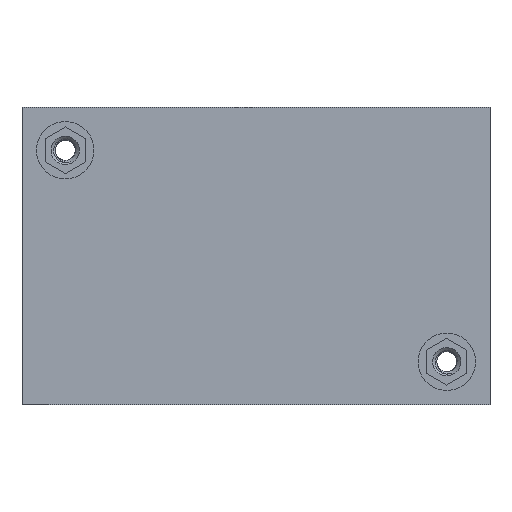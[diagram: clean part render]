
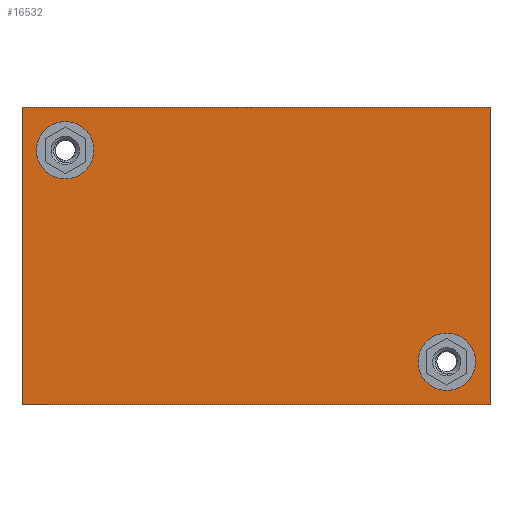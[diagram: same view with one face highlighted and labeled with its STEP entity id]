
A CAD part, front view. The second image highlights one B-rep face of the part: STEP entity #16532.
In plain terms, the highlighted planar face has unit normal (0, -1, 0).
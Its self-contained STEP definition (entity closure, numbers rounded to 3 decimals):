
#696 = ORIENTED_EDGE ( 'NONE', *, *, #8808, .F. ) ;
#756 = DIRECTION ( 'NONE',  ( 0., 0., 1. ) ) ;
#2139 = CIRCLE ( 'NONE', #15955, 3.55 ) ;
#2159 = EDGE_CURVE ( 'NONE', #18829, #3963, #7957, .T. ) ;
#2382 = CARTESIAN_POINT ( 'NONE',  ( -28.95, -1.2, -18.4 ) ) ;
#2909 = LINE ( 'NONE', #20754, #21457 ) ;
#3963 = VERTEX_POINT ( 'NONE', #20576 ) ;
#4309 = ORIENTED_EDGE ( 'NONE', *, *, #20284, .T. ) ;
#4701 = PLANE ( 'NONE',  #20001 ) ;
#5327 = CARTESIAN_POINT ( 'NONE',  ( -28.95, -1.2, -18.4 ) ) ;
#6822 = CARTESIAN_POINT ( 'NONE',  ( 28.95, -1.2, -18.4 ) ) ;
#7057 = FACE_BOUND ( 'NONE', #8844, .T. ) ;
#7743 = VECTOR ( 'NONE', #13984, 1000. ) ;
#7746 = VERTEX_POINT ( 'NONE', #17975 ) ;
#7957 = LINE ( 'NONE', #16082, #7743 ) ;
#7995 = CARTESIAN_POINT ( 'NONE',  ( -23.6, -1.2, 13.08 ) ) ;
#8808 = EDGE_CURVE ( 'NONE', #14227, #14227, #24595, .T. ) ;
#8844 = EDGE_LOOP ( 'NONE', ( #696 ) ) ;
#10131 = LINE ( 'NONE', #2382, #21352 ) ;
#10866 = CARTESIAN_POINT ( 'NONE',  ( 28.95, -1.2, 18.4 ) ) ;
#10970 = EDGE_LOOP ( 'NONE', ( #25571 ) ) ;
#11732 = VECTOR ( 'NONE', #13441, 1000. ) ;
#12267 = CARTESIAN_POINT ( 'NONE',  ( 23.6, -1.2, -9.53 ) ) ;
#12706 = DIRECTION ( 'NONE',  ( 0., -1., 0. ) ) ;
#12961 = CARTESIAN_POINT ( 'NONE',  ( -28.95, -1.2, 18.4 ) ) ;
#13385 = ORIENTED_EDGE ( 'NONE', *, *, #23958, .T. ) ;
#13441 = DIRECTION ( 'NONE',  ( -1., 0., 0. ) ) ;
#13755 = DIRECTION ( 'NONE',  ( 0., -1., 0. ) ) ;
#13984 = DIRECTION ( 'NONE',  ( 0., 0., 1. ) ) ;
#14019 = DIRECTION ( 'NONE',  ( 0., 0., 1. ) ) ;
#14227 = VERTEX_POINT ( 'NONE', #12267 ) ;
#14520 = DIRECTION ( 'NONE',  ( 0., -1., 0. ) ) ;
#15410 = CARTESIAN_POINT ( 'NONE',  ( 28.95, -1.2, 18.4 ) ) ;
#15872 = VERTEX_POINT ( 'NONE', #5327 ) ;
#15955 = AXIS2_PLACEMENT_3D ( 'NONE', #7995, #13755, #14019 ) ;
#16082 = CARTESIAN_POINT ( 'NONE',  ( 28.95, -1.2, -18.4 ) ) ;
#16098 = ORIENTED_EDGE ( 'NONE', *, *, #20369, .T. ) ;
#16190 = EDGE_LOOP ( 'NONE', ( #21915, #4309, #16098, #13385 ) ) ;
#16532 = ADVANCED_FACE ( 'NONE', ( #7057, #18999, #24533 ), #4701, .T. ) ;
#17007 = CARTESIAN_POINT ( 'NONE',  ( 23.6, -1.2, -13.08 ) ) ;
#17019 = AXIS2_PLACEMENT_3D ( 'NONE', #17007, #14520, #22796 ) ;
#17975 = CARTESIAN_POINT ( 'NONE',  ( -23.6, -1.2, 16.63 ) ) ;
#18829 = VERTEX_POINT ( 'NONE', #6822 ) ;
#18999 = FACE_BOUND ( 'NONE', #10970, .T. ) ;
#19613 = DIRECTION ( 'NONE',  ( 0., 0., -1. ) ) ;
#19979 = VERTEX_POINT ( 'NONE', #12961 ) ;
#20001 = AXIS2_PLACEMENT_3D ( 'NONE', #10866, #12706, #756 ) ;
#20284 = EDGE_CURVE ( 'NONE', #3963, #19979, #25407, .T. ) ;
#20369 = EDGE_CURVE ( 'NONE', #19979, #15872, #10131, .T. ) ;
#20576 = CARTESIAN_POINT ( 'NONE',  ( 28.95, -1.2, 18.4 ) ) ;
#20754 = CARTESIAN_POINT ( 'NONE',  ( 28.95, -1.2, -18.4 ) ) ;
#21352 = VECTOR ( 'NONE', #19613, 1000. ) ;
#21457 = VECTOR ( 'NONE', #25577, 1000. ) ;
#21915 = ORIENTED_EDGE ( 'NONE', *, *, #2159, .T. ) ;
#22796 = DIRECTION ( 'NONE',  ( 0., 0., 1. ) ) ;
#23958 = EDGE_CURVE ( 'NONE', #15872, #18829, #2909, .T. ) ;
#24533 = FACE_OUTER_BOUND ( 'NONE', #16190, .T. ) ;
#24595 = CIRCLE ( 'NONE', #17019, 3.55 ) ;
#25147 = EDGE_CURVE ( 'NONE', #7746, #7746, #2139, .T. ) ;
#25407 = LINE ( 'NONE', #15410, #11732 ) ;
#25571 = ORIENTED_EDGE ( 'NONE', *, *, #25147, .F. ) ;
#25577 = DIRECTION ( 'NONE',  ( 1., 0., 0. ) ) ;
